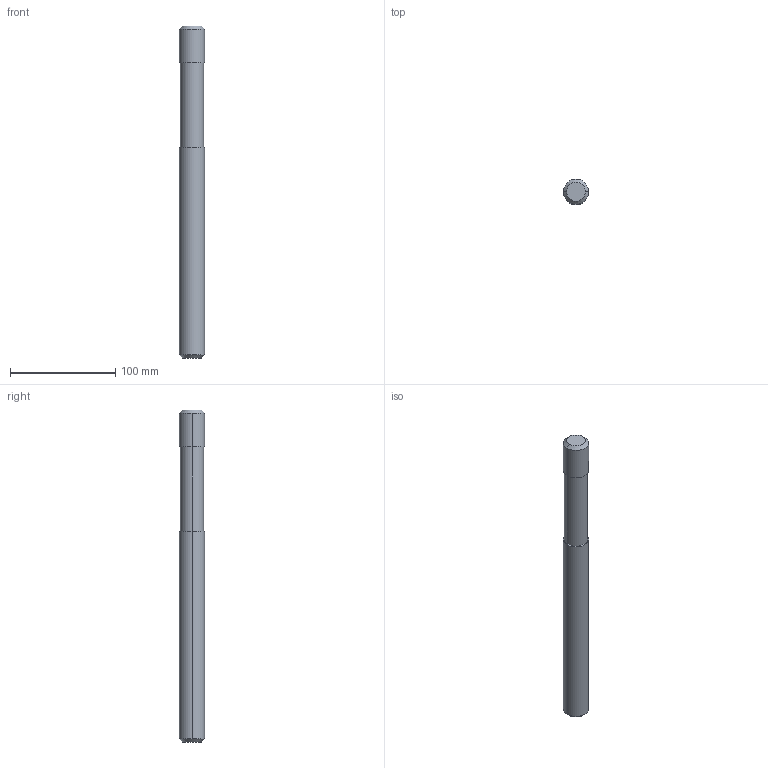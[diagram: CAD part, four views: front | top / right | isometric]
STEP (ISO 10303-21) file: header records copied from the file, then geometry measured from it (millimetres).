
FILE_DESCRIPTION (( 'STEP AP203' ), '1' );
FILE_NAME ('bj745-24315.STEP', '2021-10-25T00:11:39', ( '' ), ( '' ), 'SwSTEP 2.0', 'SolidWorks 2020', '' );
FILE_SCHEMA (( 'CONFIG_CONTROL_DESIGN' ));
Length unit declared in the file: millimetre
Products named in the file (1): bj745-24315
Bounding box: 24 x 24 x 315 mm (x, y, z)
Volume: 136100.1 mm3; surface area: 24008.7 mm2
Topology: 1 solids, 1 shells, 14 faces, 26 edges, 16 vertices
Faces by surface type: cylinder 6, cone 4, plane 4
Entity records: 431 total; most frequent: DIRECTION 72, CARTESIAN_POINT 57, ORIENTED_EDGE 52, AXIS2_PLACEMENT_3D 31, EDGE_CURVE 26, EDGE_LOOP 16, VERTEX_POINT 16, CIRCLE 16
